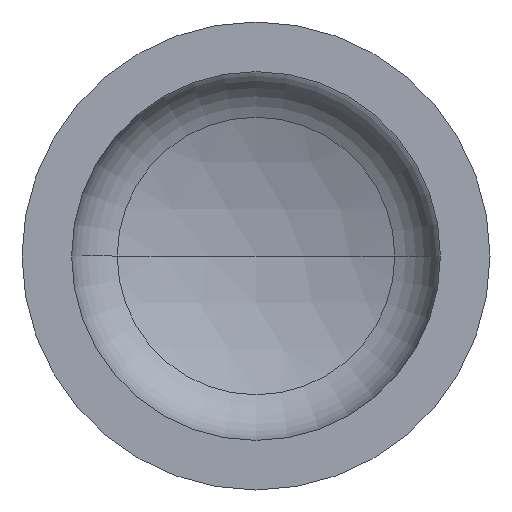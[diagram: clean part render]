
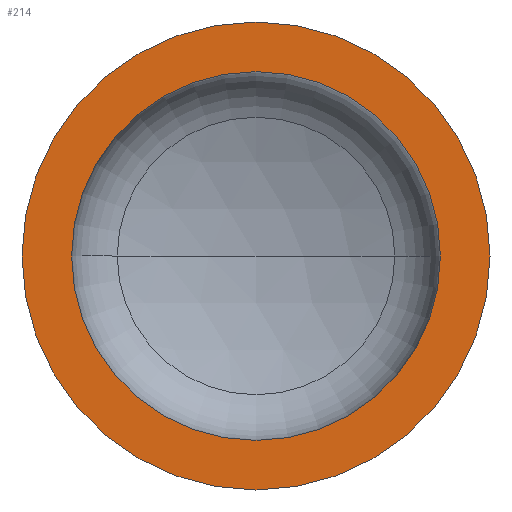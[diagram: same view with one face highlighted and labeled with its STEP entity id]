
A CAD part, front view. The second image highlights one B-rep face of the part: STEP entity #214.
In plain terms, the highlighted planar face has unit normal (0, -1, 0).
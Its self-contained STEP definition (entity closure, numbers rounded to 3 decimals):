
#1 = AXIS2_PLACEMENT_3D ( 'NONE', #250, #395, #170 ) ;
#11 = AXIS2_PLACEMENT_3D ( 'NONE', #237, #135, #140 ) ;
#21 = DIRECTION ( 'NONE',  ( 0., 1., 0. ) ) ;
#23 = CARTESIAN_POINT ( 'NONE',  ( -500., 0., 0. ) ) ;
#24 = AXIS2_PLACEMENT_3D ( 'NONE', #23, #21, #344 ) ;
#40 = VERTEX_POINT ( 'NONE', #239 ) ;
#46 = AXIS2_PLACEMENT_3D ( 'NONE', #185, #186, #334 ) ;
#49 = AXIS2_PLACEMENT_3D ( 'NONE', #312, #311, #310 ) ;
#51 = ORIENTED_EDGE ( 'NONE', *, *, #61, .F. ) ;
#60 = EDGE_CURVE ( 'NONE', #83, #40, #386, .T. ) ;
#61 = EDGE_CURVE ( 'NONE', #64, #190, #201, .T. ) ;
#64 = VERTEX_POINT ( 'NONE', #213 ) ;
#83 = VERTEX_POINT ( 'NONE', #191 ) ;
#96 = CIRCLE ( 'NONE', #1, 500. ) ;
#97 = EDGE_LOOP ( 'NONE', ( #51, #319 ) ) ;
#135 = DIRECTION ( 'NONE',  ( 0., -1., 0. ) ) ;
#140 = DIRECTION ( 'NONE',  ( 1., 0., 0. ) ) ;
#144 = ORIENTED_EDGE ( 'NONE', *, *, #383, .T. ) ;
#145 = CARTESIAN_POINT ( 'NONE',  ( -394., 0., 0. ) ) ;
#151 = FACE_BOUND ( 'NONE', #97, .T. ) ;
#170 = DIRECTION ( 'NONE',  ( 1., 0., 0. ) ) ;
#185 = CARTESIAN_POINT ( 'NONE',  ( 0., 0., 0. ) ) ;
#186 = DIRECTION ( 'NONE',  ( 0., -1., 0. ) ) ;
#190 = VERTEX_POINT ( 'NONE', #145 ) ;
#191 = CARTESIAN_POINT ( 'NONE',  ( -500., 0., 0. ) ) ;
#195 = ORIENTED_EDGE ( 'NONE', *, *, #60, .T. ) ;
#201 = CIRCLE ( 'NONE', #46, 394. ) ;
#213 = CARTESIAN_POINT ( 'NONE',  ( 394., 0., 0. ) ) ;
#214 = ADVANCED_FACE ( 'NONE', ( #151, #253 ), #223, .F. ) ;
#223 = PLANE ( 'NONE',  #24 ) ;
#237 = CARTESIAN_POINT ( 'NONE',  ( 0., 0., 0. ) ) ;
#239 = CARTESIAN_POINT ( 'NONE',  ( 500., 0., 0. ) ) ;
#250 = CARTESIAN_POINT ( 'NONE',  ( 0., 0., 0. ) ) ;
#253 = FACE_OUTER_BOUND ( 'NONE', #402, .T. ) ;
#289 = CIRCLE ( 'NONE', #11, 394. ) ;
#310 = DIRECTION ( 'NONE',  ( 1., 0., 0. ) ) ;
#311 = DIRECTION ( 'NONE',  ( 0., -1., 0. ) ) ;
#312 = CARTESIAN_POINT ( 'NONE',  ( 0., 0., 0. ) ) ;
#319 = ORIENTED_EDGE ( 'NONE', *, *, #346, .F. ) ;
#334 = DIRECTION ( 'NONE',  ( 1., 0., 0. ) ) ;
#344 = DIRECTION ( 'NONE',  ( -1., 0., 0. ) ) ;
#346 = EDGE_CURVE ( 'NONE', #190, #64, #289, .T. ) ;
#383 = EDGE_CURVE ( 'NONE', #40, #83, #96, .T. ) ;
#386 = CIRCLE ( 'NONE', #49, 500. ) ;
#395 = DIRECTION ( 'NONE',  ( 0., -1., 0. ) ) ;
#402 = EDGE_LOOP ( 'NONE', ( #144, #195 ) ) ;
